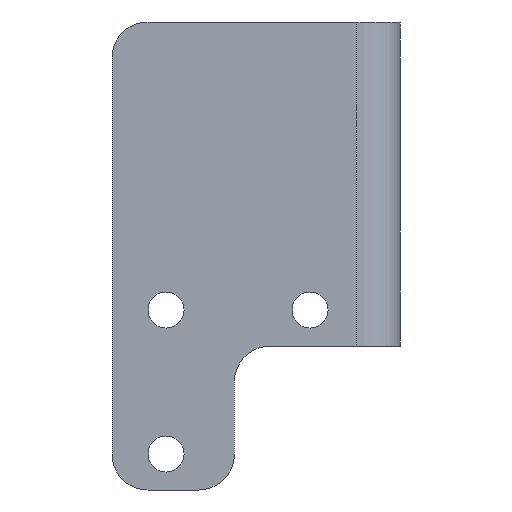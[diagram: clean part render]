
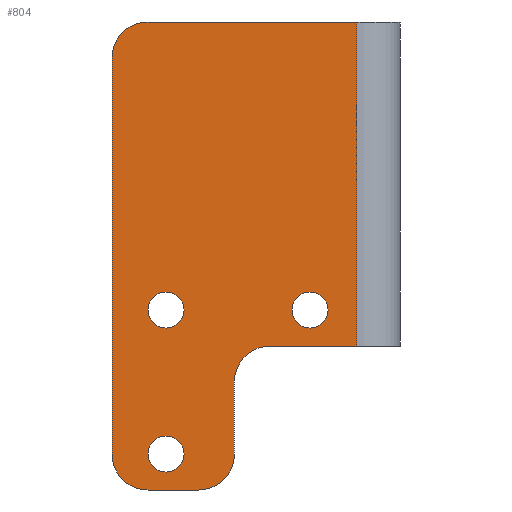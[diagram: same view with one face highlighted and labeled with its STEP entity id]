
A CAD part, left-side view. The second image highlights one B-rep face of the part: STEP entity #804.
In plain terms, the highlighted planar face has unit normal (-1, 0, 0).
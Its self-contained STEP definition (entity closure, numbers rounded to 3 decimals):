
#220=CARTESIAN_POINT('',(0.,32.5,5.));
#221=DIRECTION('',(-1.,0.,0.));
#222=DIRECTION('',(0.,-1.,0.));
#223=AXIS2_PLACEMENT_3D('',#220,#221,#222);
#225=CARTESIAN_POINT('',(0.,32.5,5.));
#226=DIRECTION('',(-1.,0.,0.));
#227=DIRECTION('',(0.,1.,0.));
#228=AXIS2_PLACEMENT_3D('',#225,#226,#227);
#230=CARTESIAN_POINT('',(0.,32.5,25.));
#231=DIRECTION('',(-1.,0.,0.));
#232=DIRECTION('',(0.,-1.,0.));
#233=AXIS2_PLACEMENT_3D('',#230,#231,#232);
#235=CARTESIAN_POINT('',(0.,32.5,25.));
#236=DIRECTION('',(-1.,0.,0.));
#237=DIRECTION('',(0.,1.,0.));
#238=AXIS2_PLACEMENT_3D('',#235,#236,#237);
#240=CARTESIAN_POINT('',(0.,12.5,25.));
#241=DIRECTION('',(-1.,0.,0.));
#242=DIRECTION('',(0.,-1.,0.));
#243=AXIS2_PLACEMENT_3D('',#240,#241,#242);
#245=CARTESIAN_POINT('',(0.,12.5,25.));
#246=DIRECTION('',(-1.,0.,0.));
#247=DIRECTION('',(0.,1.,0.));
#248=AXIS2_PLACEMENT_3D('',#245,#246,#247);
#250=CARTESIAN_POINT('',(0.,35.,5.));
#251=DIRECTION('',(-1.,0.,0.));
#252=DIRECTION('',(0.,1.,0.));
#253=AXIS2_PLACEMENT_3D('',#250,#251,#252);
#255=DIRECTION('',(0.,0.,1.));
#256=VECTOR('',#255,55.);
#257=CARTESIAN_POINT('',(0.,40.,5.));
#258=LINE('',#257,#256);
#259=CARTESIAN_POINT('',(0.,35.,60.));
#260=DIRECTION('',(-1.,0.,0.));
#261=DIRECTION('',(0.,0.,1.));
#262=AXIS2_PLACEMENT_3D('',#259,#260,#261);
#264=DIRECTION('',(0.,0.,-1.));
#265=VECTOR('',#264,45.);
#266=CARTESIAN_POINT('',(0.,6.,65.));
#267=LINE('',#266,#265);
#268=DIRECTION('',(0.,1.,0.));
#269=VECTOR('',#268,12.);
#270=CARTESIAN_POINT('',(0.,6.,20.));
#271=LINE('',#270,#269);
#272=DIRECTION('',(0.,0.,1.));
#273=VECTOR('',#272,10.);
#274=CARTESIAN_POINT('',(0.,23.,5.));
#275=LINE('',#274,#273);
#276=CARTESIAN_POINT('',(0.,28.,5.));
#277=DIRECTION('',(-1.,0.,0.));
#278=DIRECTION('',(0.,0.,-1.));
#279=AXIS2_PLACEMENT_3D('',#276,#277,#278);
#305=DIRECTION('',(0.,-1.,0.));
#306=VECTOR('',#305,7.);
#307=CARTESIAN_POINT('',(0.,35.,0.));
#308=LINE('',#307,#306);
#325=CARTESIAN_POINT('',(0.,18.,15.));
#326=DIRECTION('',(1.,0.,0.));
#327=DIRECTION('',(0.,1.,0.));
#328=AXIS2_PLACEMENT_3D('',#325,#326,#327);
#359=DIRECTION('',(0.,-1.,0.));
#360=VECTOR('',#359,29.);
#361=CARTESIAN_POINT('',(0.,35.,65.));
#362=LINE('',#361,#360);
#363=CARTESIAN_POINT('',(0.,6.,65.));
#365=VERTEX_POINT('',#363);
#387=CARTESIAN_POINT('',(0.,40.,5.));
#388=CARTESIAN_POINT('',(0.,35.,0.));
#389=VERTEX_POINT('',#387);
#390=VERTEX_POINT('',#388);
#395=CARTESIAN_POINT('',(0.,35.,65.));
#396=CARTESIAN_POINT('',(0.,40.,60.));
#397=VERTEX_POINT('',#395);
#398=VERTEX_POINT('',#396);
#403=CARTESIAN_POINT('',(0.,30.,5.));
#404=CARTESIAN_POINT('',(0.,35.,5.));
#405=VERTEX_POINT('',#403);
#406=VERTEX_POINT('',#404);
#411=CARTESIAN_POINT('',(0.,30.,25.));
#412=CARTESIAN_POINT('',(0.,35.,25.));
#413=VERTEX_POINT('',#411);
#414=VERTEX_POINT('',#412);
#419=CARTESIAN_POINT('',(0.,10.,25.));
#420=CARTESIAN_POINT('',(0.,15.,25.));
#421=VERTEX_POINT('',#419);
#422=VERTEX_POINT('',#420);
#435=CARTESIAN_POINT('',(0.,6.,20.));
#436=VERTEX_POINT('',#435);
#443=CARTESIAN_POINT('',(0.,23.,15.));
#445=VERTEX_POINT('',#443);
#447=CARTESIAN_POINT('',(0.,18.,20.));
#449=VERTEX_POINT('',#447);
#459=CARTESIAN_POINT('',(0.,28.,0.));
#460=CARTESIAN_POINT('',(0.,23.,5.));
#461=VERTEX_POINT('',#459);
#462=VERTEX_POINT('',#460);
#761=CARTESIAN_POINT('',(0.,40.,0.));
#762=DIRECTION('',(-1.,0.,0.));
#763=DIRECTION('',(0.,-1.,0.));
#764=AXIS2_PLACEMENT_3D('',#761,#762,#763);
#765=PLANE('',#764);
#767=ORIENTED_EDGE('',*,*,#766,.F.);
#769=ORIENTED_EDGE('',*,*,#768,.T.);
#771=ORIENTED_EDGE('',*,*,#770,.F.);
#773=ORIENTED_EDGE('',*,*,#772,.T.);
#774=ORIENTED_EDGE('',*,*,#602,.T.);
#776=ORIENTED_EDGE('',*,*,#775,.T.);
#778=ORIENTED_EDGE('',*,*,#777,.F.);
#780=ORIENTED_EDGE('',*,*,#779,.F.);
#782=ORIENTED_EDGE('',*,*,#781,.F.);
#784=ORIENTED_EDGE('',*,*,#783,.F.);
#785=EDGE_LOOP('',(#767,#769,#771,#773,#774,#776,#778,#780,#782,#784));
#786=FACE_OUTER_BOUND('',#785,.F.);
#788=ORIENTED_EDGE('',*,*,#787,.T.);
#790=ORIENTED_EDGE('',*,*,#789,.T.);
#791=EDGE_LOOP('',(#788,#790));
#792=FACE_BOUND('',#791,.F.);
#794=ORIENTED_EDGE('',*,*,#793,.T.);
#796=ORIENTED_EDGE('',*,*,#795,.T.);
#797=EDGE_LOOP('',(#794,#796));
#798=FACE_BOUND('',#797,.F.);
#799=ORIENTED_EDGE('',*,*,#751,.T.);
#801=ORIENTED_EDGE('',*,*,#800,.T.);
#802=EDGE_LOOP('',(#799,#801));
#803=FACE_BOUND('',#802,.F.);
#804=ADVANCED_FACE('',(#786,#792,#798,#803),#765,.T.);
#224=CIRCLE('',#223,2.5);
#229=CIRCLE('',#228,2.5);
#234=CIRCLE('',#233,2.5);
#239=CIRCLE('',#238,2.5);
#244=CIRCLE('',#243,2.5);
#249=CIRCLE('',#248,2.5);
#254=CIRCLE('',#253,5.);
#263=CIRCLE('',#262,5.);
#280=CIRCLE('',#279,5.);
#329=CIRCLE('',#328,5.);
#602=EDGE_CURVE('',#365,#436,#267,.T.);
#751=EDGE_CURVE('',#405,#406,#224,.T.);
#766=EDGE_CURVE('',#389,#390,#254,.T.);
#768=EDGE_CURVE('',#389,#398,#258,.T.);
#770=EDGE_CURVE('',#397,#398,#263,.T.);
#772=EDGE_CURVE('',#397,#365,#362,.T.);
#775=EDGE_CURVE('',#436,#449,#271,.T.);
#777=EDGE_CURVE('',#445,#449,#329,.T.);
#779=EDGE_CURVE('',#462,#445,#275,.T.);
#781=EDGE_CURVE('',#461,#462,#280,.T.);
#783=EDGE_CURVE('',#390,#461,#308,.T.);
#787=EDGE_CURVE('',#413,#414,#234,.T.);
#789=EDGE_CURVE('',#414,#413,#239,.T.);
#793=EDGE_CURVE('',#421,#422,#244,.T.);
#795=EDGE_CURVE('',#422,#421,#249,.T.);
#800=EDGE_CURVE('',#406,#405,#229,.T.);
